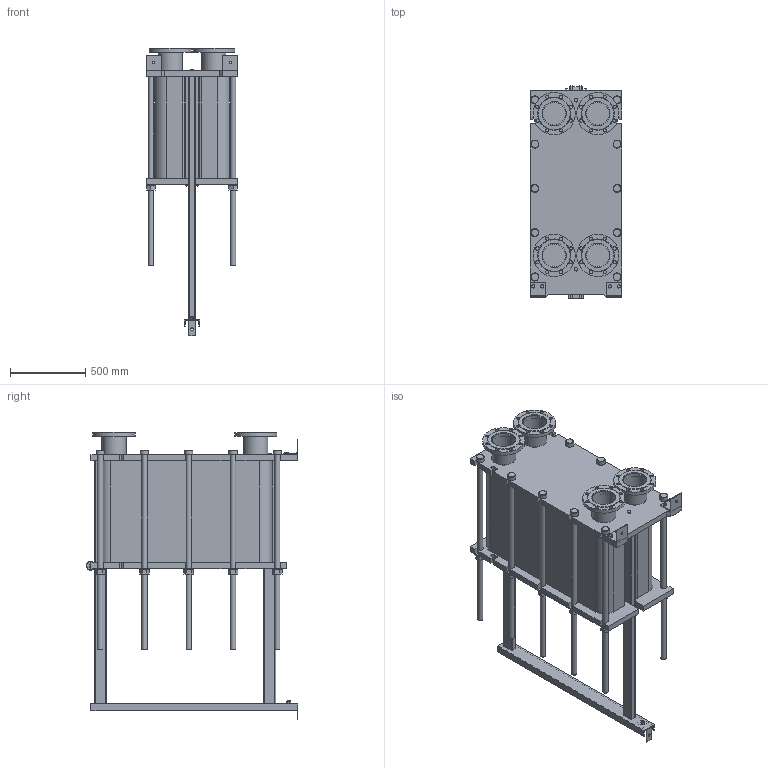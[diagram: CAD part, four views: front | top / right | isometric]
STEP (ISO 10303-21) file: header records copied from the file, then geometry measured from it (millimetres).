
FILE_DESCRIPTION(/* description */ (''),/* implementation_level */ '2;1');
FILE_NAME(/* name */ 'C:\Users\zhuro\Desktop\ENCO\TO\ЭН-041\ЭН-0,5-041-196-1.stp',/* time_stamp */ '2022-06-06T11:06:04+03:00',/* author */ ('zhuro'),/* organization */ (''),/* preprocessor_version */ 'ST-DEVELOPER v18.1',/* originating_system */ 'Autodesk Inventor 2022',/* authorisation */ '');
FILE_SCHEMA (('AUTOMOTIVE_DESIGN { 1 0 10303 214 3 1 1 }'));
Length unit declared in the file: millimetre
Products named in the file (1): ЭН-0,5-041-196-1
Bounding box: 610 x 1406.5 x 1910 mm (x, y, z)
Volume: 467539405.4 mm3; surface area: 11141232.4 mm2
Topology: 52 solids, 52 shells, 711 faces, 1696 edges, 1094 vertices
Faces by surface type: plane 487, cylinder 177, cone 41, torus 6
Full cylindrical faces by diameter (mm): 8 x4, 10 x2, 16 x8, 18 x3, 22 x32, 36 x24, 50 x1, 54 x10, 60 x12, 151 x4, 161 x8, 280 x4
Entity records: 22667 total; most frequent: CARTESIAN_POINT 5230, DIRECTION 3644, ORIENTED_EDGE 3392, EDGE_CURVE 1696, AXIS2_PLACEMENT_3D 1272, LINE 1100, VECTOR 1100, VERTEX_POINT 1094
